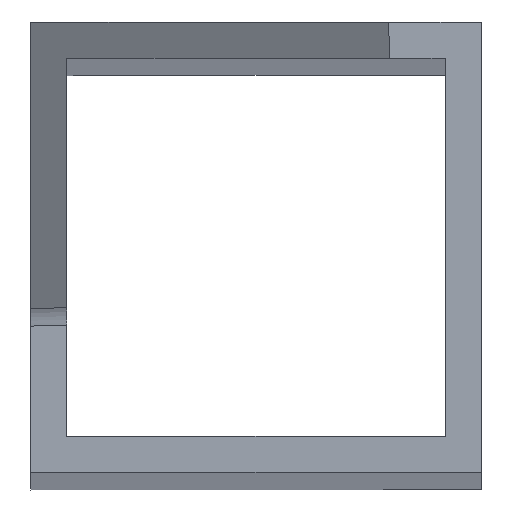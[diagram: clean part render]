
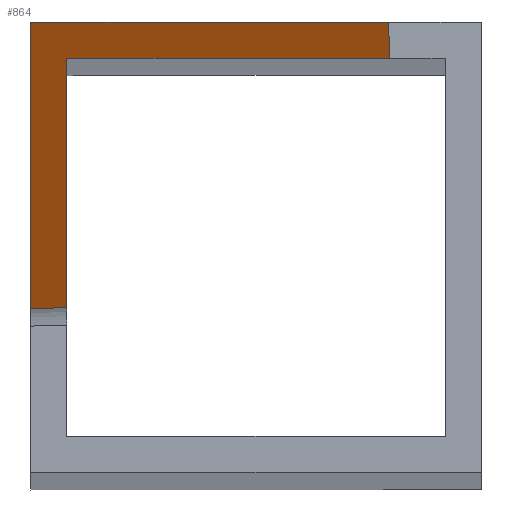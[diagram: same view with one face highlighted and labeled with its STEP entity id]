
A CAD part, top view. The second image highlights one B-rep face of the part: STEP entity #864.
In plain terms, the highlighted planar face has unit normal (-0.573, -0.011, 0.819).
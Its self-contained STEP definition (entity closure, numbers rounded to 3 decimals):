
#70 = PLANE('',#71);
#71 = AXIS2_PLACEMENT_3D('',#72,#73,#74);
#72 = CARTESIAN_POINT('',(-25.,25.,-25.));
#73 = DIRECTION('',(1.,0.,-0.));
#74 = DIRECTION('',(0.,-1.,0.));
#97 = PLANE('',#98);
#98 = AXIS2_PLACEMENT_3D('',#99,#100,#101);
#99 = CARTESIAN_POINT('',(-0.,-0.,1101.268));
#100 = DIRECTION('',(0.,0.,-1.));
#101 = DIRECTION('',(-1.,0.,-0.));
#193 = PLANE('',#194);
#194 = AXIS2_PLACEMENT_3D('',#195,#196,#197);
#195 = CARTESIAN_POINT('',(25.,25.,-25.));
#196 = DIRECTION('',(0.,-1.,0.));
#197 = DIRECTION('',(-1.,0.,0.));
#249 = PLANE('',#250);
#250 = AXIS2_PLACEMENT_3D('',#251,#252,#253);
#251 = CARTESIAN_POINT('',(-21.,21.,-25.));
#252 = DIRECTION('',(1.,0.,-0.));
#253 = DIRECTION('',(0.,-1.,0.));
#275 = PLANE('',#276);
#276 = AXIS2_PLACEMENT_3D('',#277,#278,#279);
#277 = CARTESIAN_POINT('',(21.,21.,-25.));
#278 = DIRECTION('',(0.,-1.,0.));
#279 = DIRECTION('',(-1.,0.,0.));
#361 = VERTEX_POINT('',#362);
#362 = CARTESIAN_POINT('',(14.735,25.,1101.268));
#494 = VERTEX_POINT('',#495);
#495 = CARTESIAN_POINT('',(14.815,21.,1101.268));
#514 = EDGE_CURVE('',#494,#361,#515,.T.);
#515 = SURFACE_CURVE('',#516,(#520,#526),.PCURVE_S1.);
#516 = LINE('',#517,#518);
#517 = CARTESIAN_POINT('',(15.292,-2.821,
    1101.268));
#518 = VECTOR('',#519,1.);
#519 = DIRECTION('',(-0.02,1.,0.));
#520 = PCURVE('',#97,#521);
#521 = DEFINITIONAL_REPRESENTATION('',(#522),#525);
#522 = B_SPLINE_CURVE_WITH_KNOTS('',1,(#523,#524),.UNSPECIFIED.,.F.,.F.,
  (2,2),(-3.126,27.827),.PIECEWISE_BEZIER_KNOTS.);
#523 = CARTESIAN_POINT('',(-15.354,-5.947));
#524 = CARTESIAN_POINT('',(-14.735,25.));
#525 = ( GEOMETRIC_REPRESENTATION_CONTEXT(2) 
PARAMETRIC_REPRESENTATION_CONTEXT() REPRESENTATION_CONTEXT('2D SPACE',''
  ) );
#526 = PCURVE('',#527,#532);
#527 = PLANE('',#528);
#528 = AXIS2_PLACEMENT_3D('',#529,#530,#531);
#529 = CARTESIAN_POINT('',(-674.488,-19.744,
    618.379));
#530 = DIRECTION('',(-0.573,-0.011,0.819)
  );
#531 = DIRECTION('',(-0.02,1.,0.)
  );
#532 = DEFINITIONAL_REPRESENTATION('',(#533),#536);
#533 = B_SPLINE_CURVE_WITH_KNOTS('',1,(#534,#535),.UNSPECIFIED.,.F.,.F.,
  (2,2),(-3.126,27.827),.PIECEWISE_BEZIER_KNOTS.);
#534 = CARTESIAN_POINT('',(0.,-842.173));
#535 = CARTESIAN_POINT('',(30.953,-842.173));
#536 = ( GEOMETRIC_REPRESENTATION_CONTEXT(2) 
PARAMETRIC_REPRESENTATION_CONTEXT() REPRESENTATION_CONTEXT('2D SPACE',''
  ) );
#543 = VERTEX_POINT('',#544);
#544 = CARTESIAN_POINT('',(-25.,25.,1073.465));
#565 = EDGE_CURVE('',#543,#566,#568,.T.);
#566 = VERTEX_POINT('',#567);
#567 = CARTESIAN_POINT('',(-25.,-6.754,1073.02));
#568 = SURFACE_CURVE('',#569,(#573,#579),.PCURVE_S1.);
#569 = LINE('',#570,#571);
#570 = CARTESIAN_POINT('',(-25.,-8.236,1073.));
#571 = VECTOR('',#572,1.);
#572 = DIRECTION('',(0.,-1.,-0.014));
#573 = PCURVE('',#70,#574);
#574 = DEFINITIONAL_REPRESENTATION('',(#575),#578);
#575 = B_SPLINE_CURVE_WITH_KNOTS('',1,(#576,#577),.UNSPECIFIED.,.F.,.F.,
  (2,2),(-33.239,-1.482),.PIECEWISE_BEZIER_KNOTS.);
#576 = CARTESIAN_POINT('',(0.,-1098.465));
#577 = CARTESIAN_POINT('',(31.754,-1098.02));
#578 = ( GEOMETRIC_REPRESENTATION_CONTEXT(2) 
PARAMETRIC_REPRESENTATION_CONTEXT() REPRESENTATION_CONTEXT('2D SPACE',''
  ) );
#579 = PCURVE('',#527,#580);
#580 = DEFINITIONAL_REPRESENTATION('',(#581),#584);
#581 = B_SPLINE_CURVE_WITH_KNOTS('',1,(#582,#583),.UNSPECIFIED.,.F.,.F.,
  (2,2),(-33.239,-1.482),.PIECEWISE_BEZIER_KNOTS.);
#582 = CARTESIAN_POINT('',(31.748,-793.683));
#583 = CARTESIAN_POINT('',(0.,-792.908));
#584 = ( GEOMETRIC_REPRESENTATION_CONTEXT(2) 
PARAMETRIC_REPRESENTATION_CONTEXT() REPRESENTATION_CONTEXT('2D SPACE',''
  ) );
#603 = CYLINDRICAL_SURFACE('',#604,2.);
#604 = AXIS2_PLACEMENT_3D('',#605,#606,#607);
#605 = CARTESIAN_POINT('',(-675.635,-19.767,
    620.017));
#606 = DIRECTION('',(0.819,0.016,0.573));
#607 = DIRECTION('',(-0.02,1.,
    0.));
#647 = EDGE_CURVE('',#361,#543,#648,.T.);
#648 = SURFACE_CURVE('',#649,(#653,#659),.PCURVE_S1.);
#649 = LINE('',#650,#651);
#650 = CARTESIAN_POINT('',(-591.102,25.,677.352));
#651 = VECTOR('',#652,1.);
#652 = DIRECTION('',(-0.819,-0.,-0.573));
#653 = PCURVE('',#193,#654);
#654 = DEFINITIONAL_REPRESENTATION('',(#655),#658);
#655 = B_SPLINE_CURVE_WITH_KNOTS('',1,(#656,#657),.UNSPECIFIED.,.F.,.F.,
  (2,2),(-739.421,-690.924),.PIECEWISE_BEZIER_KNOTS.);
#656 = CARTESIAN_POINT('',(10.265,-1126.268));
#657 = CARTESIAN_POINT('',(50.,-1098.465));
#658 = ( GEOMETRIC_REPRESENTATION_CONTEXT(2) 
PARAMETRIC_REPRESENTATION_CONTEXT() REPRESENTATION_CONTEXT('2D SPACE',''
  ) );
#659 = PCURVE('',#527,#660);
#660 = DEFINITIONAL_REPRESENTATION('',(#661),#664);
#661 = B_SPLINE_CURVE_WITH_KNOTS('',1,(#662,#663),.UNSPECIFIED.,.F.,.F.,
  (2,2),(-739.421,-690.924),.PIECEWISE_BEZIER_KNOTS.);
#662 = CARTESIAN_POINT('',(30.953,-842.173));
#663 = CARTESIAN_POINT('',(31.748,-793.683));
#664 = ( GEOMETRIC_REPRESENTATION_CONTEXT(2) 
PARAMETRIC_REPRESENTATION_CONTEXT() REPRESENTATION_CONTEXT('2D SPACE',''
  ) );
#747 = EDGE_CURVE('',#494,#748,#750,.T.);
#748 = VERTEX_POINT('',#749);
#749 = CARTESIAN_POINT('',(-21.,21.,1076.208));
#750 = SURFACE_CURVE('',#751,(#755,#761),.PCURVE_S1.);
#751 = LINE('',#752,#753);
#752 = CARTESIAN_POINT('',(-592.418,21.,676.375));
#753 = VECTOR('',#754,1.);
#754 = DIRECTION('',(-0.819,-0.,-0.573));
#755 = PCURVE('',#275,#756);
#756 = DEFINITIONAL_REPRESENTATION('',(#757),#760);
#757 = B_SPLINE_CURVE_WITH_KNOTS('',1,(#758,#759),.UNSPECIFIED.,.F.,.F.,
  (2,2),(-741.125,-697.413),.PIECEWISE_BEZIER_KNOTS.);
#758 = CARTESIAN_POINT('',(6.185,-1126.268));
#759 = CARTESIAN_POINT('',(42.,-1101.208));
#760 = ( GEOMETRIC_REPRESENTATION_CONTEXT(2) 
PARAMETRIC_REPRESENTATION_CONTEXT() REPRESENTATION_CONTEXT('2D SPACE',''
  ) );
#761 = PCURVE('',#527,#762);
#762 = DEFINITIONAL_REPRESENTATION('',(#763),#766);
#763 = B_SPLINE_CURVE_WITH_KNOTS('',1,(#764,#765),.UNSPECIFIED.,.F.,.F.,
  (2,2),(-741.125,-697.413),.PIECEWISE_BEZIER_KNOTS.);
#764 = CARTESIAN_POINT('',(26.952,-842.173));
#765 = CARTESIAN_POINT('',(27.668,-798.466));
#766 = ( GEOMETRIC_REPRESENTATION_CONTEXT(2) 
PARAMETRIC_REPRESENTATION_CONTEXT() REPRESENTATION_CONTEXT('2D SPACE',''
  ) );
#794 = EDGE_CURVE('',#748,#795,#797,.T.);
#795 = VERTEX_POINT('',#796);
#796 = CARTESIAN_POINT('',(-21.,-6.674,1075.82));
#797 = SURFACE_CURVE('',#798,(#802,#808),.PCURVE_S1.);
#798 = LINE('',#799,#800);
#799 = CARTESIAN_POINT('',(-21.,-10.275,1075.77));
#800 = VECTOR('',#801,1.);
#801 = DIRECTION('',(0.,-1.,-0.014));
#802 = PCURVE('',#249,#803);
#803 = DEFINITIONAL_REPRESENTATION('',(#804),#807);
#804 = B_SPLINE_CURVE_WITH_KNOTS('',1,(#805,#806),.UNSPECIFIED.,.F.,.F.,
  (2,2),(-31.278,-3.601),.PIECEWISE_BEZIER_KNOTS.);
#805 = CARTESIAN_POINT('',(0.,-1101.208));
#806 = CARTESIAN_POINT('',(27.674,-1100.82));
#807 = ( GEOMETRIC_REPRESENTATION_CONTEXT(2) 
PARAMETRIC_REPRESENTATION_CONTEXT() REPRESENTATION_CONTEXT('2D SPACE',''
  ) );
#808 = PCURVE('',#527,#809);
#809 = DEFINITIONAL_REPRESENTATION('',(#810),#813);
#810 = B_SPLINE_CURVE_WITH_KNOTS('',1,(#811,#812),.UNSPECIFIED.,.F.,.F.,
  (2,2),(-31.278,-3.601),.PIECEWISE_BEZIER_KNOTS.);
#811 = CARTESIAN_POINT('',(27.668,-798.466));
#812 = CARTESIAN_POINT('',(0.,-797.791));
#813 = ( GEOMETRIC_REPRESENTATION_CONTEXT(2) 
PARAMETRIC_REPRESENTATION_CONTEXT() REPRESENTATION_CONTEXT('2D SPACE',''
  ) );
#864 = ADVANCED_FACE('',(#865),#527,.T.);
#865 = FACE_BOUND('',#866,.T.);
#866 = EDGE_LOOP('',(#867,#868,#889,#890,#891,#892));
#867 = ORIENTED_EDGE('',*,*,#565,.T.);
#868 = ORIENTED_EDGE('',*,*,#869,.T.);
#869 = EDGE_CURVE('',#566,#795,#870,.T.);
#870 = SURFACE_CURVE('',#871,(#875,#882),.PCURVE_S1.);
#871 = LINE('',#872,#873);
#872 = CARTESIAN_POINT('',(-674.488,-19.744,
    618.379));
#873 = VECTOR('',#874,1.);
#874 = DIRECTION('',(0.819,0.016,0.573));
#875 = PCURVE('',#527,#876);
#876 = DEFINITIONAL_REPRESENTATION('',(#877),#881);
#877 = LINE('',#878,#879);
#878 = CARTESIAN_POINT('',(0.,-0.));
#879 = VECTOR('',#880,1.);
#880 = DIRECTION('',(0.,-1.));
#881 = ( GEOMETRIC_REPRESENTATION_CONTEXT(2) 
PARAMETRIC_REPRESENTATION_CONTEXT() REPRESENTATION_CONTEXT('2D SPACE',''
  ) );
#882 = PCURVE('',#603,#883);
#883 = DEFINITIONAL_REPRESENTATION('',(#884),#888);
#884 = LINE('',#885,#886);
#885 = CARTESIAN_POINT('',(-1.571,0.));
#886 = VECTOR('',#887,1.);
#887 = DIRECTION('',(-0.,1.));
#888 = ( GEOMETRIC_REPRESENTATION_CONTEXT(2) 
PARAMETRIC_REPRESENTATION_CONTEXT() REPRESENTATION_CONTEXT('2D SPACE',''
  ) );
#889 = ORIENTED_EDGE('',*,*,#794,.F.);
#890 = ORIENTED_EDGE('',*,*,#747,.F.);
#891 = ORIENTED_EDGE('',*,*,#514,.T.);
#892 = ORIENTED_EDGE('',*,*,#647,.T.);
